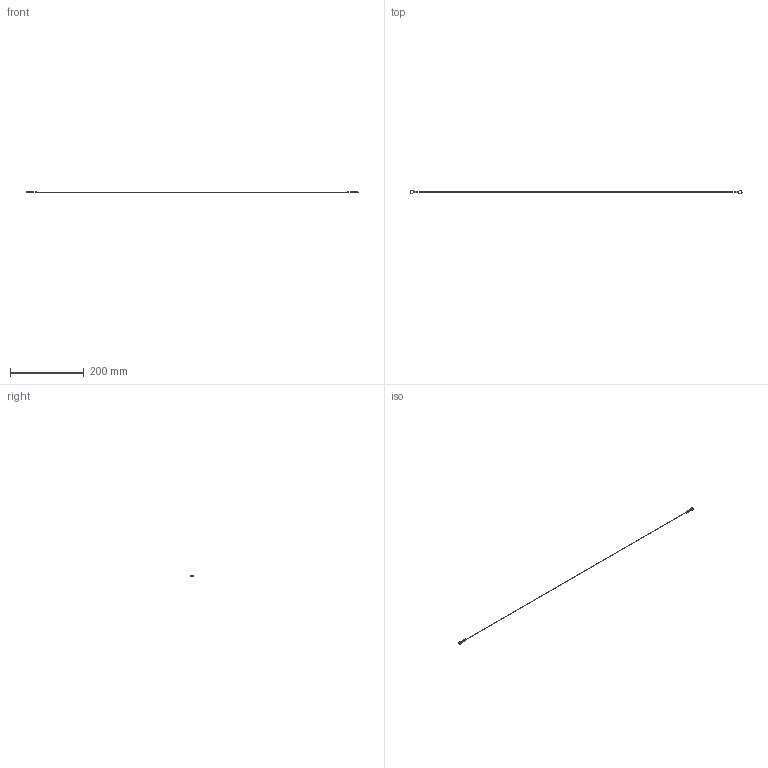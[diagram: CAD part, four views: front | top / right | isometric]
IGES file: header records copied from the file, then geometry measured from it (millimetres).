
Start section:  PTC IGES file: EB-935_13.igs
Global section: file name: EB-935_13.igs; native system: Creo Parametric by Parametric Technology Corporation; preprocessor: 2012360; author: xeon_1; organization: Unknown; date: 20130808.094030; units: millimetre
Bounding box: 900 x 10.12 x 2.5 mm (x, y, z)
Volume: 884 mm3; surface area: 3128.8 mm2
Topology: 1 solids, 1 shells, 26 faces, 62 edges, 36 vertices
Faces by surface type: revolution 14, bspline 12
